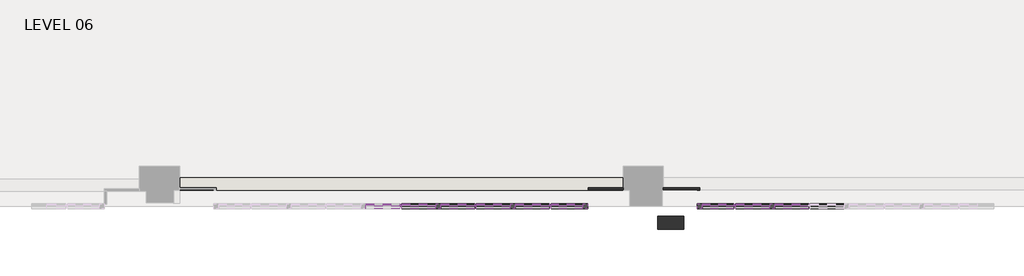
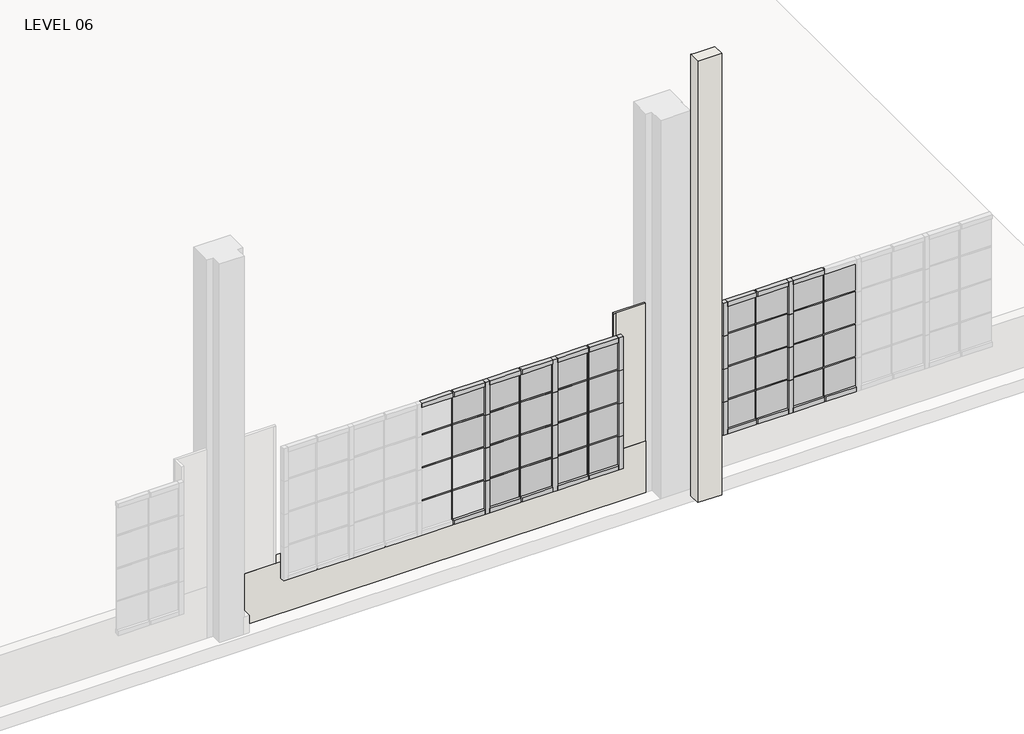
# One storey, part 6 of 16: 82 members, 34 plates, 6 walls.
"""IFC4 building model written with IfcOpenShell, lengths in millimetres."""

from ifc_helpers import new_model, si_unit, frame, origin, place, context, project, spatial, polyline, outline, extrude, faceted_brep, transform, mapped, element, save
from components import member_78bb2ef1, member_cb03ba1c, member_aa53491b, member_c1b5942e, member_9d26962d, member_378e0c06, member_17eb62f4, system_panel_glazed_79ade883, system_panel_glazed_12cc9f41, system_panel_glazed_730530c4, system_panel_glazed_b8d6571b

model = new_model("IFC4")

# Units and contexts
model_context = context("Model", 3, world=origin())
ifc_project = project(units=[si_unit("LENGTHUNIT", "METRE", prefix="MILLI")], contexts=[model_context])

# Site, building, storey
site = spatial("IfcSite", under=ifc_project)
building = spatial("IfcBuilding", under=site)
storey = spatial("IfcBuildingStorey", under=building, Name="LEVEL 06", Elevation=17449.8)

# Members
placement = place(None, origin())
member_shape = member_78bb2ef1(model_context)
element("IfcMember", 1, ObjectType="Rectangular Mullion : 1\" x 1\" - Butt Joint", at=placement, inside=storey, context=model_context, shape_type="MappedRepresentation", body=[
    mapped(member_shape, transform((-11742.0217677, -25119.8112062, 19989.8), x_axis=(1.0, 0.0, 0.0), y_axis=(0.0, -1.0, 0.0), z_axis=(0.0, 0.0, -1.0))),
])
element("IfcMember", 2, ObjectType="Rectangular Mullion : 1\" x 1\" - Butt Joint", at=placement, inside=storey, context=model_context, shape_type="MappedRepresentation", body=[
    mapped(member_shape, transform((-10604.1017677, -25119.8112062, 19989.8), x_axis=(1.0, 0.0, 0.0), y_axis=(0.0, -1.0, 0.0), z_axis=(0.0, 0.0, -1.0))),
])
element("IfcMember", 3, ObjectType="Rectangular Mullion : 1\" x 1\" - Butt Joint", at=placement, inside=storey, context=model_context, shape_type="MappedRepresentation", body=[
    mapped(member_shape, transform((-9466.1817677, -25119.8112062, 19989.8), x_axis=(1.0, 0.0, 0.0), y_axis=(0.0, -1.0, 0.0), z_axis=(0.0, 0.0, -1.0))),
])
element("IfcMember", 4, ObjectType="Rectangular Mullion : 1\" x 1\" - Butt Joint", at=placement, inside=storey, context=model_context, shape_type="MappedRepresentation", body=[
    mapped(member_shape, transform((-6655.9871136, -25119.8112062, 19989.8), x_axis=(1.0, 0.0, 0.0), y_axis=(0.0, -1.0, 0.0), z_axis=(0.0, 0.0, -1.0))),
])
element("IfcMember", 5, ObjectType="Rectangular Mullion : 1\" x 1\" - Butt Joint", at=placement, inside=storey, context=model_context, shape_type="MappedRepresentation", body=[
    mapped(member_shape, transform((-5518.0671136, -25119.8112062, 19989.8), x_axis=(1.0, 0.0, 0.0), y_axis=(0.0, -1.0, 0.0), z_axis=(0.0, 0.0, -1.0))),
])
member_2_shape = member_cb03ba1c(model_context)
element("IfcMember", 6, ObjectType="Rectangular Mullion : 1\" x 1\" - Butt Joint", at=placement, inside=storey, context=model_context, shape_type="MappedRepresentation", body=[
    mapped(member_2_shape, transform((-10073.2417677, -25119.8112062, 19989.8), x_axis=(0.0, 0.0, 1.0), y_axis=(0.0, -1.0, 0.0), z_axis=(1.0, 0.0, 0.0))),
])
element("IfcMember", 7, ObjectType="Rectangular Mullion : 1\" x 1\" - Butt Joint", at=placement, inside=storey, context=model_context, shape_type="MappedRepresentation", body=[
    mapped(member_2_shape, transform((-11211.1617677, -25119.8112062, 19989.8), x_axis=(0.0, 0.0, 1.0), y_axis=(0.0, -1.0, 0.0), z_axis=(1.0, 0.0, 0.0))),
])
element("IfcMember", 8, ObjectType="Rectangular Mullion : 1\" x 1\" - Butt Joint", at=placement, inside=storey, context=model_context, shape_type="MappedRepresentation", body=[
    mapped(member_2_shape, transform((-9478.8817677, -25119.8112062, 19989.8), x_axis=(0.0, 0.0, 1.0), y_axis=(0.0, -1.0, 0.0), z_axis=(1.0, 0.0, 0.0))),
])
element("IfcMember", 9, ObjectType="Rectangular Mullion : 1\" x 1\" - Butt Joint", at=placement, inside=storey, context=model_context, shape_type="MappedRepresentation", body=[
    mapped(member_2_shape, transform((-10616.8017677, -25119.8112062, 19989.8), x_axis=(0.0, 0.0, 1.0), y_axis=(0.0, -1.0, 0.0), z_axis=(1.0, 0.0, 0.0))),
])
element("IfcMember", 10, ObjectType="Rectangular Mullion : 1\" x 1\" - Butt Joint", at=placement, inside=storey, context=model_context, shape_type="MappedRepresentation", body=[
    mapped(member_2_shape, transform((-11754.7217677, -25119.8112062, 19989.8), x_axis=(0.0, 0.0, 1.0), y_axis=(0.0, -1.0, 0.0), z_axis=(1.0, 0.0, 0.0))),
])
element("IfcMember", 11, ObjectType="Rectangular Mullion : 1\" x 1\" - Butt Joint", at=placement, inside=storey, context=model_context, shape_type="MappedRepresentation", body=[
    mapped(member_2_shape, transform((-10073.2417677, -25119.8112062, 19405.6), x_axis=(0.0, 0.0, 1.0), y_axis=(0.0, -1.0, 0.0), z_axis=(1.0, 0.0, 0.0))),
])
element("IfcMember", 12, ObjectType="Rectangular Mullion : 1\" x 1\" - Butt Joint", at=placement, inside=storey, context=model_context, shape_type="MappedRepresentation", body=[
    mapped(member_2_shape, transform((-11211.1617677, -25119.8112062, 19405.6), x_axis=(0.0, 0.0, 1.0), y_axis=(0.0, -1.0, 0.0), z_axis=(1.0, 0.0, 0.0))),
])
element("IfcMember", 13, ObjectType="Rectangular Mullion : 1\" x 1\" - Butt Joint", at=placement, inside=storey, context=model_context, shape_type="MappedRepresentation", body=[
    mapped(member_2_shape, transform((-9478.8817677, -25119.8112062, 19405.6), x_axis=(0.0, 0.0, 1.0), y_axis=(0.0, -1.0, 0.0), z_axis=(1.0, 0.0, 0.0))),
])
element("IfcMember", 14, ObjectType="Rectangular Mullion : 1\" x 1\" - Butt Joint", at=placement, inside=storey, context=model_context, shape_type="MappedRepresentation", body=[
    mapped(member_2_shape, transform((-10616.8017677, -25119.8112062, 19405.6), x_axis=(0.0, 0.0, 1.0), y_axis=(0.0, -1.0, 0.0), z_axis=(1.0, 0.0, 0.0))),
])
element("IfcMember", 15, ObjectType="Rectangular Mullion : 1\" x 1\" - Butt Joint", at=placement, inside=storey, context=model_context, shape_type="MappedRepresentation", body=[
    mapped(member_2_shape, transform((-11754.7217677, -25119.8112062, 19405.6), x_axis=(0.0, 0.0, 1.0), y_axis=(0.0, -1.0, 0.0), z_axis=(1.0, 0.0, 0.0))),
])
element("IfcMember", 16, ObjectType="Rectangular Mullion : 1\" x 1\" - Butt Joint", at=placement, inside=storey, context=model_context, shape_type="MappedRepresentation", body=[
    mapped(member_2_shape, transform((-10073.2417677, -25119.8112062, 18821.4), x_axis=(0.0, 0.0, 1.0), y_axis=(0.0, -1.0, 0.0), z_axis=(1.0, 0.0, 0.0))),
])
element("IfcMember", 17, ObjectType="Rectangular Mullion : 1\" x 1\" - Butt Joint", at=placement, inside=storey, context=model_context, shape_type="MappedRepresentation", body=[
    mapped(member_2_shape, transform((-11211.1617677, -25119.8112062, 18821.4), x_axis=(0.0, 0.0, 1.0), y_axis=(0.0, -1.0, 0.0), z_axis=(1.0, 0.0, 0.0))),
])
element("IfcMember", 18, ObjectType="Rectangular Mullion : 1\" x 1\" - Butt Joint", at=placement, inside=storey, context=model_context, shape_type="MappedRepresentation", body=[
    mapped(member_2_shape, transform((-9478.8817677, -25119.8112062, 18821.4), x_axis=(0.0, 0.0, 1.0), y_axis=(0.0, -1.0, 0.0), z_axis=(1.0, 0.0, 0.0))),
])
element("IfcMember", 19, ObjectType="Rectangular Mullion : 1\" x 1\" - Butt Joint", at=placement, inside=storey, context=model_context, shape_type="MappedRepresentation", body=[
    mapped(member_2_shape, transform((-10616.8017677, -25119.8112062, 18821.4), x_axis=(0.0, 0.0, 1.0), y_axis=(0.0, -1.0, 0.0), z_axis=(1.0, 0.0, 0.0))),
])
element("IfcMember", 20, ObjectType="Rectangular Mullion : 1\" x 1\" - Butt Joint", at=placement, inside=storey, context=model_context, shape_type="MappedRepresentation", body=[
    mapped(member_2_shape, transform((-11754.7217677, -25119.8112062, 18821.4), x_axis=(0.0, 0.0, 1.0), y_axis=(0.0, -1.0, 0.0), z_axis=(1.0, 0.0, 0.0))),
])
element("IfcMember", 21, ObjectType="Rectangular Mullion : 1\" x 1\" - Butt Joint", at=placement, inside=storey, context=model_context, shape_type="MappedRepresentation", body=[
    mapped(member_2_shape, transform((-6125.1271136, -25119.8112062, 19989.8), x_axis=(0.0, 0.0, 1.0), y_axis=(0.0, -1.0, 0.0), z_axis=(1.0, 0.0, 0.0))),
])
element("IfcMember", 22, ObjectType="Rectangular Mullion : 1\" x 1\" - Butt Joint", at=placement, inside=storey, context=model_context, shape_type="MappedRepresentation", body=[
    mapped(member_2_shape, transform((-5530.7671136, -25119.8112062, 19989.8), x_axis=(0.0, 0.0, 1.0), y_axis=(0.0, -1.0, 0.0), z_axis=(1.0, 0.0, 0.0))),
])
element("IfcMember", 23, ObjectType="Rectangular Mullion : 1\" x 1\" - Butt Joint", at=placement, inside=storey, context=model_context, shape_type="MappedRepresentation", body=[
    mapped(member_2_shape, transform((-6125.1271136, -25119.8112062, 19405.6), x_axis=(0.0, 0.0, 1.0), y_axis=(0.0, -1.0, 0.0), z_axis=(1.0, 0.0, 0.0))),
])
element("IfcMember", 24, ObjectType="Rectangular Mullion : 1\" x 1\" - Butt Joint", at=placement, inside=storey, context=model_context, shape_type="MappedRepresentation", body=[
    mapped(member_2_shape, transform((-5530.7671136, -25119.8112062, 19405.6), x_axis=(0.0, 0.0, 1.0), y_axis=(0.0, -1.0, 0.0), z_axis=(1.0, 0.0, 0.0))),
])
element("IfcMember", 25, ObjectType="Rectangular Mullion : 1\" x 1\" - Butt Joint", at=placement, inside=storey, context=model_context, shape_type="MappedRepresentation", body=[
    mapped(member_2_shape, transform((-6125.1271136, -25119.8112062, 18821.4), x_axis=(0.0, 0.0, 1.0), y_axis=(0.0, -1.0, 0.0), z_axis=(1.0, 0.0, 0.0))),
])
element("IfcMember", 26, ObjectType="Rectangular Mullion : 1\" x 1\" - Butt Joint", at=placement, inside=storey, context=model_context, shape_type="MappedRepresentation", body=[
    mapped(member_2_shape, transform((-5530.7671136, -25119.8112062, 18821.4), x_axis=(0.0, 0.0, 1.0), y_axis=(0.0, -1.0, 0.0), z_axis=(1.0, 0.0, 0.0))),
])
member_3_shape = member_aa53491b(model_context)
element("IfcMember", 27, ObjectType="Rectangular Mullion : 1\" x 1\" - Butt Joint", at=placement, inside=storey, context=model_context, shape_type="MappedRepresentation", body=[
    mapped(member_3_shape, transform((-8973.4217677, -25119.8112062, 19989.8), x_axis=(0.0, 0.0, 1.0), y_axis=(0.0, -1.0, 0.0), z_axis=(1.0, 0.0, 0.0))),
])
element("IfcMember", 28, ObjectType="Rectangular Mullion : 1\" x 1\" - Butt Joint", at=placement, inside=storey, context=model_context, shape_type="MappedRepresentation", body=[
    mapped(member_3_shape, transform((-8973.4217677, -25119.8112062, 19405.6), x_axis=(0.0, 0.0, 1.0), y_axis=(0.0, -1.0, 0.0), z_axis=(1.0, 0.0, 0.0))),
])
element("IfcMember", 29, ObjectType="Rectangular Mullion : 1\" x 1\" - Butt Joint", at=placement, inside=storey, context=model_context, shape_type="MappedRepresentation", body=[
    mapped(member_3_shape, transform((-8973.4217677, -25119.8112062, 18821.4), x_axis=(0.0, 0.0, 1.0), y_axis=(0.0, -1.0, 0.0), z_axis=(1.0, 0.0, 0.0))),
])
element("IfcMember", 30, ObjectType="Rectangular Mullion : 1\" x 1\" - Butt Joint", at=placement, inside=storey, context=model_context, shape_type="MappedRepresentation", body=[
    mapped(member_3_shape, transform((-6668.6871136, -25119.8112062, 19989.8), x_axis=(0.0, 0.0, 1.0), y_axis=(0.0, -1.0, 0.0), z_axis=(1.0, 0.0, 0.0))),
])
element("IfcMember", 31, ObjectType="Rectangular Mullion : 1\" x 1\" - Butt Joint", at=placement, inside=storey, context=model_context, shape_type="MappedRepresentation", body=[
    mapped(member_3_shape, transform((-6668.6871136, -25119.8112062, 19405.6), x_axis=(0.0, 0.0, 1.0), y_axis=(0.0, -1.0, 0.0), z_axis=(1.0, 0.0, 0.0))),
])
element("IfcMember", 32, ObjectType="Rectangular Mullion : 1\" x 1\" - Butt Joint", at=placement, inside=storey, context=model_context, shape_type="MappedRepresentation", body=[
    mapped(member_3_shape, transform((-6668.6871136, -25119.8112062, 18821.4), x_axis=(0.0, 0.0, 1.0), y_axis=(0.0, -1.0, 0.0), z_axis=(1.0, 0.0, 0.0))),
])
element("IfcMember", 33, ObjectType="Rectangular Mullion : 1\" x 1\" - Butt Joint", at=placement, inside=storey, context=model_context, shape_type="MappedRepresentation", body=[
    mapped(member_shape, transform((-11742.0217677, -25119.8112062, 19405.6), x_axis=(1.0, 0.0, 0.0), y_axis=(0.0, -1.0, 0.0), z_axis=(0.0, 0.0, -1.0))),
])
element("IfcMember", 34, ObjectType="Rectangular Mullion : 1\" x 1\" - Butt Joint", at=placement, inside=storey, context=model_context, shape_type="MappedRepresentation", body=[
    mapped(member_shape, transform((-11742.0217677, -25119.8112062, 18821.4), x_axis=(1.0, 0.0, 0.0), y_axis=(0.0, -1.0, 0.0), z_axis=(0.0, 0.0, -1.0))),
])
element("IfcMember", 35, ObjectType="Rectangular Mullion : 1\" x 1\" - Butt Joint", at=placement, inside=storey, context=model_context, shape_type="MappedRepresentation", body=[
    mapped(member_shape, transform((-10604.1017677, -25119.8112062, 19405.6), x_axis=(1.0, 0.0, 0.0), y_axis=(0.0, -1.0, 0.0), z_axis=(0.0, 0.0, -1.0))),
])
element("IfcMember", 36, ObjectType="Rectangular Mullion : 1\" x 1\" - Butt Joint", at=placement, inside=storey, context=model_context, shape_type="MappedRepresentation", body=[
    mapped(member_shape, transform((-10604.1017677, -25119.8112062, 18821.4), x_axis=(1.0, 0.0, 0.0), y_axis=(0.0, -1.0, 0.0), z_axis=(0.0, 0.0, -1.0))),
])
element("IfcMember", 37, ObjectType="Rectangular Mullion : 1\" x 1\" - Butt Joint", at=placement, inside=storey, context=model_context, shape_type="MappedRepresentation", body=[
    mapped(member_shape, transform((-9466.1817677, -25119.8112062, 19405.6), x_axis=(1.0, 0.0, 0.0), y_axis=(0.0, -1.0, 0.0), z_axis=(0.0, 0.0, -1.0))),
])
element("IfcMember", 38, ObjectType="Rectangular Mullion : 1\" x 1\" - Butt Joint", at=placement, inside=storey, context=model_context, shape_type="MappedRepresentation", body=[
    mapped(member_shape, transform((-9466.1817677, -25119.8112062, 18821.4), x_axis=(1.0, 0.0, 0.0), y_axis=(0.0, -1.0, 0.0), z_axis=(0.0, 0.0, -1.0))),
])
element("IfcMember", 39, ObjectType="Rectangular Mullion : 1\" x 1\" - Butt Joint", at=placement, inside=storey, context=model_context, shape_type="MappedRepresentation", body=[
    mapped(member_shape, transform((-6655.9871136, -25119.8112062, 19405.6), x_axis=(1.0, 0.0, 0.0), y_axis=(0.0, -1.0, 0.0), z_axis=(0.0, 0.0, -1.0))),
])
element("IfcMember", 40, ObjectType="Rectangular Mullion : 1\" x 1\" - Butt Joint", at=placement, inside=storey, context=model_context, shape_type="MappedRepresentation", body=[
    mapped(member_shape, transform((-6655.9871136, -25119.8112062, 18821.4), x_axis=(1.0, 0.0, 0.0), y_axis=(0.0, -1.0, 0.0), z_axis=(0.0, 0.0, -1.0))),
])
element("IfcMember", 41, ObjectType="Rectangular Mullion : 1\" x 1\" - Butt Joint", at=placement, inside=storey, context=model_context, shape_type="MappedRepresentation", body=[
    mapped(member_shape, transform((-11742.0217677, -25119.8112062, 18237.2), x_axis=(1.0, 0.0, 0.0), y_axis=(0.0, -1.0, 0.0), z_axis=(0.0, 0.0, -1.0))),
])
element("IfcMember", 42, ObjectType="Rectangular Mullion : 1\" x 1\" - Butt Joint", at=placement, inside=storey, context=model_context, shape_type="MappedRepresentation", body=[
    mapped(member_shape, transform((-10604.1017677, -25119.8112062, 18237.2), x_axis=(1.0, 0.0, 0.0), y_axis=(0.0, -1.0, 0.0), z_axis=(0.0, 0.0, -1.0))),
])
element("IfcMember", 43, ObjectType="Rectangular Mullion : 1\" x 1\" - Butt Joint", at=placement, inside=storey, context=model_context, shape_type="MappedRepresentation", body=[
    mapped(member_shape, transform((-9466.1817677, -25119.8112062, 18237.2), x_axis=(1.0, 0.0, 0.0), y_axis=(0.0, -1.0, 0.0), z_axis=(0.0, 0.0, -1.0))),
])
element("IfcMember", 44, ObjectType="Rectangular Mullion : 1\" x 1\" - Butt Joint", at=placement, inside=storey, context=model_context, shape_type="MappedRepresentation", body=[
    mapped(member_shape, transform((-6655.9871136, -25119.8112062, 18237.2), x_axis=(1.0, 0.0, 0.0), y_axis=(0.0, -1.0, 0.0), z_axis=(0.0, 0.0, -1.0))),
])
member_4_shape = member_c1b5942e(model_context)
element("IfcMember", 45, ObjectType="Rectangular Mullion : 3\" x 3\" Window Jamb", at=placement, inside=storey, context=model_context, shape_type="MappedRepresentation", body=[
    mapped(member_4_shape, transform((-10591.4017677, -25119.8112062, 18237.2), x_axis=(0.0, 0.0, -1.0), y_axis=(0.0, -1.0, 0.0), z_axis=(-1.0, 0.0, 0.0))),
])
element("IfcMember", 46, ObjectType="Rectangular Mullion : 3\" x 3\" Window Jamb", at=placement, inside=storey, context=model_context, shape_type="MappedRepresentation", body=[
    mapped(member_4_shape, transform((-11729.3217677, -25119.8112062, 18237.2), x_axis=(0.0, 0.0, -1.0), y_axis=(0.0, -1.0, 0.0), z_axis=(-1.0, 0.0, 0.0))),
])
element("IfcMember", 47, ObjectType="Rectangular Mullion : 3\" x 3\" Window Jamb", at=placement, inside=storey, context=model_context, shape_type="MappedRepresentation", body=[
    mapped(member_4_shape, transform((-9997.0417677, -25119.8112062, 18237.2), x_axis=(0.0, 0.0, -1.0), y_axis=(0.0, -1.0, 0.0), z_axis=(-1.0, 0.0, 0.0))),
])
element("IfcMember", 48, ObjectType="Rectangular Mullion : 3\" x 3\" Window Jamb", at=placement, inside=storey, context=model_context, shape_type="MappedRepresentation", body=[
    mapped(member_4_shape, transform((-11134.9617677, -25119.8112062, 18237.2), x_axis=(0.0, 0.0, -1.0), y_axis=(0.0, -1.0, 0.0), z_axis=(-1.0, 0.0, 0.0))),
])
element("IfcMember", 49, ObjectType="Rectangular Mullion : 3\" x 3\" Window Jamb", at=placement, inside=storey, context=model_context, shape_type="MappedRepresentation", body=[
    mapped(member_4_shape, transform((-5505.3671136, -25119.8112062, 18237.2), x_axis=(0.0, 0.0, -1.0), y_axis=(0.0, -1.0, 0.0), z_axis=(-1.0, 0.0, 0.0))),
])
element("IfcMember", 50, ObjectType="Rectangular Mullion : 3\" x 3\" Window Jamb", at=placement, inside=storey, context=model_context, shape_type="MappedRepresentation", body=[
    mapped(member_4_shape, transform((-6643.2871136, -25119.8112062, 18237.2), x_axis=(0.0, 0.0, -1.0), y_axis=(0.0, -1.0, 0.0), z_axis=(-1.0, 0.0, 0.0))),
])
element("IfcMember", 51, ObjectType="Rectangular Mullion : 3\" x 3\" Window Jamb", at=placement, inside=storey, context=model_context, shape_type="MappedRepresentation", body=[
    mapped(member_4_shape, transform((-6048.9271136, -25119.8112062, 18237.2), x_axis=(0.0, 0.0, -1.0), y_axis=(0.0, -1.0, 0.0), z_axis=(-1.0, 0.0, 0.0))),
])
member_5_shape = member_9d26962d(model_context)
element("IfcMember", 52, ObjectType="Rectangular Mullion : 3\" x 3\" Window Jamb", at=placement, inside=storey, context=model_context, shape_type="MappedRepresentation", body=[
    mapped(member_5_shape, transform((-9453.4817677, -25119.8112062, 18237.2), x_axis=(0.0, 0.0, -1.0), y_axis=(0.0, -1.0, 0.0), z_axis=(-1.0, 0.0, 0.0))),
])
element("IfcMember", 53, ObjectType="Rectangular Mullion : 3\" x 3\" Window Jamb", at=placement, inside=storey, context=model_context, shape_type="MappedRepresentation", body=[
    mapped(member_5_shape, transform((-7148.7471136, -25119.8112062, 18237.2), x_axis=(0.0, 0.0, -1.0), y_axis=(0.0, -1.0, 0.0), z_axis=(-1.0, 0.0, 0.0))),
])
element("IfcMember", 54, ObjectType="Rectangular Mullion : 3\" x 3\" Window Jamb", at=placement, inside=storey, context=model_context, shape_type="MappedRepresentation", body=[
    mapped(member_5_shape, transform((-8973.4217677, -25119.8112062, 20574.0), x_axis=(0.0, 0.0, 1.0), y_axis=(0.0, -1.0, 0.0), z_axis=(1.0, 0.0, 0.0))),
])
element("IfcMember", 55, ObjectType="Rectangular Mullion : 3\" x 3\" Window Jamb", at=placement, inside=storey, context=model_context, shape_type="MappedRepresentation", body=[
    mapped(member_5_shape, transform((-6668.6871136, -25119.8112062, 20574.0), x_axis=(0.0, 0.0, 1.0), y_axis=(0.0, -1.0, 0.0), z_axis=(1.0, 0.0, 0.0))),
])
element("IfcMember", 56, ObjectType="Rectangular Mullion : 3\" x 3\" Window Jamb", at=placement, inside=storey, context=model_context, shape_type="MappedRepresentation", body=[
    mapped(member_4_shape, transform((-9478.8817677, -25119.8112062, 20574.0), x_axis=(0.0, 0.0, 1.0), y_axis=(0.0, -1.0, 0.0), z_axis=(1.0, 0.0, 0.0))),
])
element("IfcMember", 57, ObjectType="Rectangular Mullion : 3\" x 3\" Window Jamb", at=placement, inside=storey, context=model_context, shape_type="MappedRepresentation", body=[
    mapped(member_4_shape, transform((-10616.8017677, -25119.8112062, 20574.0), x_axis=(0.0, 0.0, 1.0), y_axis=(0.0, -1.0, 0.0), z_axis=(1.0, 0.0, 0.0))),
])
element("IfcMember", 58, ObjectType="Rectangular Mullion : 3\" x 3\" Window Jamb", at=placement, inside=storey, context=model_context, shape_type="MappedRepresentation", body=[
    mapped(member_4_shape, transform((-11754.7217677, -25119.8112062, 20574.0), x_axis=(0.0, 0.0, 1.0), y_axis=(0.0, -1.0, 0.0), z_axis=(1.0, 0.0, 0.0))),
])
element("IfcMember", 59, ObjectType="Rectangular Mullion : 3\" x 3\" Window Jamb", at=placement, inside=storey, context=model_context, shape_type="MappedRepresentation", body=[
    mapped(member_4_shape, transform((-10073.2417677, -25119.8112062, 20574.0), x_axis=(0.0, 0.0, 1.0), y_axis=(0.0, -1.0, 0.0), z_axis=(1.0, 0.0, 0.0))),
])
element("IfcMember", 60, ObjectType="Rectangular Mullion : 3\" x 3\" Window Jamb", at=placement, inside=storey, context=model_context, shape_type="MappedRepresentation", body=[
    mapped(member_4_shape, transform((-11211.1617677, -25119.8112062, 20574.0), x_axis=(0.0, 0.0, 1.0), y_axis=(0.0, -1.0, 0.0), z_axis=(1.0, 0.0, 0.0))),
])
element("IfcMember", 61, ObjectType="Rectangular Mullion : 3\" x 3\" Window Jamb", at=placement, inside=storey, context=model_context, shape_type="MappedRepresentation", body=[
    mapped(member_4_shape, transform((-5530.7671136, -25119.8112062, 20574.0), x_axis=(0.0, 0.0, 1.0), y_axis=(0.0, -1.0, 0.0), z_axis=(1.0, 0.0, 0.0))),
])
element("IfcMember", 62, ObjectType="Rectangular Mullion : 3\" x 3\" Window Jamb", at=placement, inside=storey, context=model_context, shape_type="MappedRepresentation", body=[
    mapped(member_4_shape, transform((-6125.1271136, -25119.8112062, 20574.0), x_axis=(0.0, 0.0, 1.0), y_axis=(0.0, -1.0, 0.0), z_axis=(1.0, 0.0, 0.0))),
])
member_6_shape = member_378e0c06(model_context)
element("IfcMember", 63, ObjectType="Rectangular Mullion : 3\" x 3\" Window Jamb", at=placement, inside=storey, context=model_context, shape_type="MappedRepresentation", body=[
    mapped(member_6_shape, transform((-11173.0617677, -25119.8112062, 19989.8), x_axis=(1.0, 0.0, 0.0), y_axis=(0.0, -1.0, 0.0), z_axis=(0.0, 0.0, -1.0))),
])
element("IfcMember", 64, ObjectType="Rectangular Mullion : 3\" x 3\" Window Jamb", at=placement, inside=storey, context=model_context, shape_type="MappedRepresentation", body=[
    mapped(member_6_shape, transform((-10035.1417677, -25119.8112062, 19989.8), x_axis=(1.0, 0.0, 0.0), y_axis=(0.0, -1.0, 0.0), z_axis=(0.0, 0.0, -1.0))),
])
element("IfcMember", 65, ObjectType="Rectangular Mullion : 3\" x 3\" Window Jamb", at=placement, inside=storey, context=model_context, shape_type="MappedRepresentation", body=[
    mapped(member_6_shape, transform((-6087.0271136, -25119.8112062, 19989.8), x_axis=(1.0, 0.0, 0.0), y_axis=(0.0, -1.0, 0.0), z_axis=(0.0, 0.0, -1.0))),
])
member_7_shape = member_17eb62f4(model_context)
element("IfcMember", 66, ObjectType="Rectangular Mullion : 3\" x 3\" Window Jamb", at=placement, inside=storey, context=model_context, shape_type="MappedRepresentation", body=[
    mapped(member_7_shape, transform((-8897.2217677, -25119.8112062, 19989.8), x_axis=(1.0, 0.0, 0.0), y_axis=(0.0, -1.0, 0.0), z_axis=(0.0, 0.0, -1.0))),
])
element("IfcMember", 67, ObjectType="Rectangular Mullion : 3\" x 3\" Window Jamb", at=placement, inside=storey, context=model_context, shape_type="MappedRepresentation", body=[
    mapped(member_7_shape, transform((-7224.9471136, -25119.8112062, 20574.0), x_axis=(-1.0, 0.0, 0.0), y_axis=(0.0, -1.0, 0.0), z_axis=(0.0, 0.0, 1.0))),
])
element("IfcMember", 68, ObjectType="Rectangular Mullion : 3\" x 3\" Window Jamb", at=placement, inside=storey, context=model_context, shape_type="MappedRepresentation", body=[
    mapped(member_6_shape, transform((-11173.0617677, -25119.8112062, 19405.6), x_axis=(1.0, 0.0, 0.0), y_axis=(0.0, -1.0, 0.0), z_axis=(0.0, 0.0, -1.0))),
])
element("IfcMember", 69, ObjectType="Rectangular Mullion : 3\" x 3\" Window Jamb", at=placement, inside=storey, context=model_context, shape_type="MappedRepresentation", body=[
    mapped(member_6_shape, transform((-11173.0617677, -25119.8112062, 18821.4), x_axis=(1.0, 0.0, 0.0), y_axis=(0.0, -1.0, 0.0), z_axis=(0.0, 0.0, -1.0))),
])
element("IfcMember", 70, ObjectType="Rectangular Mullion : 3\" x 3\" Window Jamb", at=placement, inside=storey, context=model_context, shape_type="MappedRepresentation", body=[
    mapped(member_6_shape, transform((-10035.1417677, -25119.8112062, 19405.6), x_axis=(1.0, 0.0, 0.0), y_axis=(0.0, -1.0, 0.0), z_axis=(0.0, 0.0, -1.0))),
])
element("IfcMember", 71, ObjectType="Rectangular Mullion : 3\" x 3\" Window Jamb", at=placement, inside=storey, context=model_context, shape_type="MappedRepresentation", body=[
    mapped(member_6_shape, transform((-10035.1417677, -25119.8112062, 18821.4), x_axis=(1.0, 0.0, 0.0), y_axis=(0.0, -1.0, 0.0), z_axis=(0.0, 0.0, -1.0))),
])
element("IfcMember", 72, ObjectType="Rectangular Mullion : 3\" x 3\" Window Jamb", at=placement, inside=storey, context=model_context, shape_type="MappedRepresentation", body=[
    mapped(member_6_shape, transform((-6087.0271136, -25119.8112062, 19405.6), x_axis=(1.0, 0.0, 0.0), y_axis=(0.0, -1.0, 0.0), z_axis=(0.0, 0.0, -1.0))),
])
element("IfcMember", 73, ObjectType="Rectangular Mullion : 3\" x 3\" Window Jamb", at=placement, inside=storey, context=model_context, shape_type="MappedRepresentation", body=[
    mapped(member_6_shape, transform((-6087.0271136, -25119.8112062, 18821.4), x_axis=(1.0, 0.0, 0.0), y_axis=(0.0, -1.0, 0.0), z_axis=(0.0, 0.0, -1.0))),
])
element("IfcMember", 74, ObjectType="Rectangular Mullion : 3\" x 3\" Window Jamb", at=placement, inside=storey, context=model_context, shape_type="MappedRepresentation", body=[
    mapped(member_7_shape, transform((-8897.2217677, -25119.8112062, 19405.6), x_axis=(1.0, 0.0, 0.0), y_axis=(0.0, -1.0, 0.0), z_axis=(0.0, 0.0, -1.0))),
])
element("IfcMember", 75, ObjectType="Rectangular Mullion : 3\" x 3\" Window Jamb", at=placement, inside=storey, context=model_context, shape_type="MappedRepresentation", body=[
    mapped(member_7_shape, transform((-8897.2217677, -25119.8112062, 18821.4), x_axis=(1.0, 0.0, 0.0), y_axis=(0.0, -1.0, 0.0), z_axis=(0.0, 0.0, -1.0))),
])
element("IfcMember", 76, ObjectType="Rectangular Mullion : 3\" x 3\" Window Jamb", at=placement, inside=storey, context=model_context, shape_type="MappedRepresentation", body=[
    mapped(member_7_shape, transform((-7224.9471136, -25119.8112062, 19989.8), x_axis=(-1.0, 0.0, 0.0), y_axis=(0.0, -1.0, 0.0), z_axis=(0.0, 0.0, 1.0))),
])
element("IfcMember", 77, ObjectType="Rectangular Mullion : 3\" x 3\" Window Jamb", at=placement, inside=storey, context=model_context, shape_type="MappedRepresentation", body=[
    mapped(member_7_shape, transform((-7224.9471136, -25119.8112062, 19405.6), x_axis=(-1.0, 0.0, 0.0), y_axis=(0.0, -1.0, 0.0), z_axis=(0.0, 0.0, 1.0))),
])
element("IfcMember", 78, ObjectType="Rectangular Mullion : 3\" x 3\" Window Jamb", at=placement, inside=storey, context=model_context, shape_type="MappedRepresentation", body=[
    mapped(member_6_shape, transform((-11173.0617677, -25119.8112062, 18237.2), x_axis=(1.0, 0.0, 0.0), y_axis=(0.0, -1.0, 0.0), z_axis=(0.0, 0.0, -1.0))),
])
element("IfcMember", 79, ObjectType="Rectangular Mullion : 3\" x 3\" Window Jamb", at=placement, inside=storey, context=model_context, shape_type="MappedRepresentation", body=[
    mapped(member_6_shape, transform((-10035.1417677, -25119.8112062, 18237.2), x_axis=(1.0, 0.0, 0.0), y_axis=(0.0, -1.0, 0.0), z_axis=(0.0, 0.0, -1.0))),
])
element("IfcMember", 80, ObjectType="Rectangular Mullion : 3\" x 3\" Window Jamb", at=placement, inside=storey, context=model_context, shape_type="MappedRepresentation", body=[
    mapped(member_6_shape, transform((-6087.0271136, -25119.8112062, 18237.2), x_axis=(1.0, 0.0, 0.0), y_axis=(0.0, -1.0, 0.0), z_axis=(0.0, 0.0, -1.0))),
])
element("IfcMember", 81, ObjectType="Rectangular Mullion : 3\" x 3\" Window Jamb", at=placement, inside=storey, context=model_context, shape_type="MappedRepresentation", body=[
    mapped(member_7_shape, transform((-8897.2217677, -25119.8112062, 18237.2), x_axis=(1.0, 0.0, 0.0), y_axis=(0.0, -1.0, 0.0), z_axis=(0.0, 0.0, -1.0))),
])
element("IfcMember", 82, ObjectType="Rectangular Mullion : 3\" x 3\" Window Jamb", at=placement, inside=storey, context=model_context, shape_type="MappedRepresentation", body=[
    mapped(member_7_shape, transform((-7224.9471136, -25119.8112062, 18821.4), x_axis=(-1.0, 0.0, 0.0), y_axis=(0.0, -1.0, 0.0), z_axis=(0.0, 0.0, 1.0))),
])

# Plates
system_panel_glazed_shape = system_panel_glazed_79ade883(model_context)
element("IfcPlate", 83, ObjectType="System Panel : Glazed", at=placement, inside=storey, context=model_context, shape_type="MappedRepresentation", body=[
    mapped(system_panel_glazed_shape, transform((-9213.4517677, -25119.8112062, 18313.4), x_axis=(1.0, 0.0, 0.0), y_axis=(0.0, 1.0, 0.0), z_axis=(0.0, 0.0, 1.0))),
])
element("IfcPlate", 84, ObjectType="System Panel : Glazed", at=placement, inside=storey, context=model_context, shape_type="MappedRepresentation", body=[
    mapped(system_panel_glazed_shape, transform((-9213.4517677, -25119.8112062, 20002.5), x_axis=(1.0, 0.0, 0.0), y_axis=(0.0, 1.0, 0.0), z_axis=(0.0, 0.0, 1.0))),
])
element("IfcPlate", 85, ObjectType="System Panel : Glazed", at=placement, inside=storey, context=model_context, shape_type="MappedRepresentation", body=[
    mapped(system_panel_glazed_shape, transform((-6908.7171136, -25119.8112062, 18313.4), x_axis=(1.0, 0.0, 0.0), y_axis=(0.0, 1.0, 0.0), z_axis=(0.0, 0.0, 1.0))),
])
element("IfcPlate", 86, ObjectType="System Panel : Glazed", at=placement, inside=storey, context=model_context, shape_type="MappedRepresentation", body=[
    mapped(system_panel_glazed_shape, transform((-6908.7171136, -25119.8112062, 20002.5), x_axis=(1.0, 0.0, 0.0), y_axis=(0.0, 1.0, 0.0), z_axis=(0.0, 0.0, 1.0))),
])
system_panel_glazed_2_shape = system_panel_glazed_12cc9f41(model_context)
element("IfcPlate", 87, ObjectType="System Panel : Glazed", at=placement, inside=storey, context=model_context, shape_type="MappedRepresentation", body=[
    mapped(system_panel_glazed_2_shape, transform((-10875.8817677, -25119.8112062, 18313.4), x_axis=(1.0, 0.0, 0.0), y_axis=(0.0, 1.0, 0.0), z_axis=(0.0, 0.0, 1.0))),
])
element("IfcPlate", 88, ObjectType="System Panel : Glazed", at=placement, inside=storey, context=model_context, shape_type="MappedRepresentation", body=[
    mapped(system_panel_glazed_2_shape, transform((-9737.9617677, -25119.8112062, 18313.4), x_axis=(1.0, 0.0, 0.0), y_axis=(0.0, 1.0, 0.0), z_axis=(0.0, 0.0, 1.0))),
])
element("IfcPlate", 89, ObjectType="System Panel : Glazed", at=placement, inside=storey, context=model_context, shape_type="MappedRepresentation", body=[
    mapped(system_panel_glazed_2_shape, transform((-10875.8817677, -25119.8112062, 20002.5), x_axis=(1.0, 0.0, 0.0), y_axis=(0.0, 1.0, 0.0), z_axis=(0.0, 0.0, 1.0))),
])
element("IfcPlate", 90, ObjectType="System Panel : Glazed", at=placement, inside=storey, context=model_context, shape_type="MappedRepresentation", body=[
    mapped(system_panel_glazed_2_shape, transform((-9737.9617677, -25119.8112062, 20002.5), x_axis=(1.0, 0.0, 0.0), y_axis=(0.0, 1.0, 0.0), z_axis=(0.0, 0.0, 1.0))),
])
element("IfcPlate", 91, ObjectType="System Panel : Glazed", at=placement, inside=storey, context=model_context, shape_type="MappedRepresentation", body=[
    mapped(system_panel_glazed_2_shape, transform((-11470.2417677, -25119.8112062, 20002.5), x_axis=(1.0, 0.0, 0.0), y_axis=(0.0, 1.0, 0.0), z_axis=(0.0, 0.0, 1.0))),
])
element("IfcPlate", 92, ObjectType="System Panel : Glazed", at=placement, inside=storey, context=model_context, shape_type="MappedRepresentation", body=[
    mapped(system_panel_glazed_2_shape, transform((-10332.3217677, -25119.8112062, 18313.4), x_axis=(1.0, 0.0, 0.0), y_axis=(0.0, 1.0, 0.0), z_axis=(0.0, 0.0, 1.0))),
])
element("IfcPlate", 93, ObjectType="System Panel : Glazed", at=placement, inside=storey, context=model_context, shape_type="MappedRepresentation", body=[
    mapped(system_panel_glazed_2_shape, transform((-10332.3217677, -25119.8112062, 20002.5), x_axis=(1.0, 0.0, 0.0), y_axis=(0.0, 1.0, 0.0), z_axis=(0.0, 0.0, 1.0))),
])
element("IfcPlate", 94, ObjectType="System Panel : Glazed", at=placement, inside=storey, context=model_context, shape_type="MappedRepresentation", body=[
    mapped(system_panel_glazed_2_shape, transform((-5789.8471136, -25119.8112062, 18313.4), x_axis=(1.0, 0.0, 0.0), y_axis=(0.0, 1.0, 0.0), z_axis=(0.0, 0.0, 1.0))),
])
element("IfcPlate", 95, ObjectType="System Panel : Glazed", at=placement, inside=storey, context=model_context, shape_type="MappedRepresentation", body=[
    mapped(system_panel_glazed_2_shape, transform((-5789.8471136, -25119.8112062, 20002.5), x_axis=(1.0, 0.0, 0.0), y_axis=(0.0, 1.0, 0.0), z_axis=(0.0, 0.0, 1.0))),
])
element("IfcPlate", 96, ObjectType="System Panel : Glazed", at=placement, inside=storey, context=model_context, shape_type="MappedRepresentation", body=[
    mapped(system_panel_glazed_2_shape, transform((-6384.2071136, -25119.8112062, 18313.4), x_axis=(1.0, 0.0, 0.0), y_axis=(0.0, 1.0, 0.0), z_axis=(0.0, 0.0, 1.0))),
])
element("IfcPlate", 97, ObjectType="System Panel : Glazed", at=placement, inside=storey, context=model_context, shape_type="MappedRepresentation", body=[
    mapped(system_panel_glazed_2_shape, transform((-6384.2071136, -25119.8112062, 20002.5), x_axis=(1.0, 0.0, 0.0), y_axis=(0.0, 1.0, 0.0), z_axis=(0.0, 0.0, 1.0))),
])
element("IfcPlate", 98, ObjectType="System Panel : Glazed", at=placement, inside=storey, context=model_context, shape_type="MappedRepresentation", body=[
    mapped(system_panel_glazed_2_shape, transform((-5246.2871136, -25119.8112062, 18313.4), x_axis=(1.0, 0.0, 0.0), y_axis=(0.0, 1.0, 0.0), z_axis=(0.0, 0.0, 1.0))),
])
element("IfcPlate", 99, ObjectType="System Panel : Glazed", at=placement, inside=storey, context=model_context, shape_type="MappedRepresentation", body=[
    mapped(system_panel_glazed_2_shape, transform((-5246.2871136, -25119.8112062, 20002.5), x_axis=(1.0, 0.0, 0.0), y_axis=(0.0, 1.0, 0.0), z_axis=(0.0, 0.0, 1.0))),
])
system_panel_glazed_3_shape = system_panel_glazed_730530c4(model_context)
element("IfcPlate", 100, ObjectType="System Panel : Glazed", at=placement, inside=storey, context=model_context, shape_type="MappedRepresentation", body=[
    mapped(system_panel_glazed_3_shape, transform((-9213.4517677, -25119.8112062, 18834.1), x_axis=(1.0, 0.0, 0.0), y_axis=(0.0, 1.0, 0.0), z_axis=(0.0, 0.0, 1.0))),
])
element("IfcPlate", 101, ObjectType="System Panel : Glazed", at=placement, inside=storey, context=model_context, shape_type="MappedRepresentation", body=[
    mapped(system_panel_glazed_3_shape, transform((-9213.4517677, -25119.8112062, 19418.3), x_axis=(1.0, 0.0, 0.0), y_axis=(0.0, 1.0, 0.0), z_axis=(0.0, 0.0, 1.0))),
])
element("IfcPlate", 102, ObjectType="System Panel : Glazed", at=placement, inside=storey, context=model_context, shape_type="MappedRepresentation", body=[
    mapped(system_panel_glazed_3_shape, transform((-6908.7171136, -25119.8112062, 18834.1), x_axis=(1.0, 0.0, 0.0), y_axis=(0.0, 1.0, 0.0), z_axis=(0.0, 0.0, 1.0))),
])
element("IfcPlate", 103, ObjectType="System Panel : Glazed", at=placement, inside=storey, context=model_context, shape_type="MappedRepresentation", body=[
    mapped(system_panel_glazed_3_shape, transform((-6908.7171136, -25119.8112062, 19418.3), x_axis=(1.0, 0.0, 0.0), y_axis=(0.0, 1.0, 0.0), z_axis=(0.0, 0.0, 1.0))),
])
system_panel_glazed_4_shape = system_panel_glazed_b8d6571b(model_context)
element("IfcPlate", 104, ObjectType="System Panel : Glazed", at=placement, inside=storey, context=model_context, shape_type="MappedRepresentation", body=[
    mapped(system_panel_glazed_4_shape, transform((-10875.8817677, -25119.8112062, 18834.1), x_axis=(1.0, 0.0, 0.0), y_axis=(0.0, 1.0, 0.0), z_axis=(0.0, 0.0, 1.0))),
])
element("IfcPlate", 105, ObjectType="System Panel : Glazed", at=placement, inside=storey, context=model_context, shape_type="MappedRepresentation", body=[
    mapped(system_panel_glazed_4_shape, transform((-9737.9617677, -25119.8112062, 18834.1), x_axis=(1.0, 0.0, 0.0), y_axis=(0.0, 1.0, 0.0), z_axis=(0.0, 0.0, 1.0))),
])
element("IfcPlate", 106, ObjectType="System Panel : Glazed", at=placement, inside=storey, context=model_context, shape_type="MappedRepresentation", body=[
    mapped(system_panel_glazed_4_shape, transform((-10875.8817677, -25119.8112062, 19418.3), x_axis=(1.0, 0.0, 0.0), y_axis=(0.0, 1.0, 0.0), z_axis=(0.0, 0.0, 1.0))),
])
element("IfcPlate", 107, ObjectType="System Panel : Glazed", at=placement, inside=storey, context=model_context, shape_type="MappedRepresentation", body=[
    mapped(system_panel_glazed_4_shape, transform((-9737.9617677, -25119.8112062, 19418.3), x_axis=(1.0, 0.0, 0.0), y_axis=(0.0, 1.0, 0.0), z_axis=(0.0, 0.0, 1.0))),
])
element("IfcPlate", 108, ObjectType="System Panel : Glazed", at=placement, inside=storey, context=model_context, shape_type="MappedRepresentation", body=[
    mapped(system_panel_glazed_4_shape, transform((-11470.2417677, -25119.8112062, 19418.3), x_axis=(1.0, 0.0, 0.0), y_axis=(0.0, 1.0, 0.0), z_axis=(0.0, 0.0, 1.0))),
])
element("IfcPlate", 109, ObjectType="System Panel : Glazed", at=placement, inside=storey, context=model_context, shape_type="MappedRepresentation", body=[
    mapped(system_panel_glazed_4_shape, transform((-10332.3217677, -25119.8112062, 18834.1), x_axis=(1.0, 0.0, 0.0), y_axis=(0.0, 1.0, 0.0), z_axis=(0.0, 0.0, 1.0))),
])
element("IfcPlate", 110, ObjectType="System Panel : Glazed", at=placement, inside=storey, context=model_context, shape_type="MappedRepresentation", body=[
    mapped(system_panel_glazed_4_shape, transform((-10332.3217677, -25119.8112062, 19418.3), x_axis=(1.0, 0.0, 0.0), y_axis=(0.0, 1.0, 0.0), z_axis=(0.0, 0.0, 1.0))),
])
element("IfcPlate", 111, ObjectType="System Panel : Glazed", at=placement, inside=storey, context=model_context, shape_type="MappedRepresentation", body=[
    mapped(system_panel_glazed_4_shape, transform((-5789.8471136, -25119.8112062, 18834.1), x_axis=(1.0, 0.0, 0.0), y_axis=(0.0, 1.0, 0.0), z_axis=(0.0, 0.0, 1.0))),
])
element("IfcPlate", 112, ObjectType="System Panel : Glazed", at=placement, inside=storey, context=model_context, shape_type="MappedRepresentation", body=[
    mapped(system_panel_glazed_4_shape, transform((-5789.8471136, -25119.8112062, 19418.3), x_axis=(1.0, 0.0, 0.0), y_axis=(0.0, 1.0, 0.0), z_axis=(0.0, 0.0, 1.0))),
])
element("IfcPlate", 113, ObjectType="System Panel : Glazed", at=placement, inside=storey, context=model_context, shape_type="MappedRepresentation", body=[
    mapped(system_panel_glazed_4_shape, transform((-6384.2071136, -25119.8112062, 18834.1), x_axis=(1.0, 0.0, 0.0), y_axis=(0.0, 1.0, 0.0), z_axis=(0.0, 0.0, 1.0))),
])
element("IfcPlate", 114, ObjectType="System Panel : Glazed", at=placement, inside=storey, context=model_context, shape_type="MappedRepresentation", body=[
    mapped(system_panel_glazed_4_shape, transform((-6384.2071136, -25119.8112062, 19418.3), x_axis=(1.0, 0.0, 0.0), y_axis=(0.0, 1.0, 0.0), z_axis=(0.0, 0.0, 1.0))),
])
element("IfcPlate", 115, ObjectType="System Panel : Glazed", at=placement, inside=storey, context=model_context, shape_type="MappedRepresentation", body=[
    mapped(system_panel_glazed_4_shape, transform((-5246.2871136, -25119.8112062, 18834.1), x_axis=(1.0, 0.0, 0.0), y_axis=(0.0, 1.0, 0.0), z_axis=(0.0, 0.0, 1.0))),
])
element("IfcPlate", 116, ObjectType="System Panel : Glazed", at=placement, inside=storey, context=model_context, shape_type="MappedRepresentation", body=[
    mapped(system_panel_glazed_4_shape, transform((-5246.2871136, -25119.8112062, 19418.3), x_axis=(1.0, 0.0, 0.0), y_axis=(0.0, 1.0, 0.0), z_axis=(0.0, 0.0, 1.0))),
])

# Walls
element("IfcWall", 117, ObjectType="Generic Exterior - Brick Three Wythe", at=placement, inside=storey, context=model_context, shape_type="Brep", body=[
    faceted_brep([(-7830.7349596, -25286.7898215, 17449.8), (-7830.7349596, -25484.083955, 17449.8), (-7830.7349596, -25484.083955, 25273.0), (-7830.7349596, -25286.7898215, 25273.0), (-7430.6849596, -25286.7898215, 17449.8), (-7430.6849596, -25286.7898215, 25273.0), (-7430.6849596, -25484.083955, 25273.0), (-7430.6849596, -25484.083955, 17449.8), (-7757.7099596, -25286.7898215, 25273.0)], [[[0, 1, 2, 3]], [[4, 5, 6, 7]], [[1, 0, 4, 7]], [[3, 2, 6, 5, 8]], [[2, 1, 7, 6]], [[0, 3, 8, 5, 4]]]),
])
element("IfcWall", 118, ObjectType="Partition A6_", at=placement, inside=storey, context=model_context, shape_type="SweptSolid", body=[
    extrude(outline(polyline([(-8352.0721136, -24886.7398215), (-15107.8349596, -24886.7398215), (-15107.8349596, -24702.5898215), (-8352.0721136, -24702.5898215), (-8352.0721136, -24886.7398215)])), frame((0.0, 0.0, 17449.8), z_axis=(0.0, 0.0, 1.0), x_axis=(1.0, 0.0, 0.0)), (0.0, 0.0, 1.0), 914.4),
])
element("IfcWall", 119, ObjectType="Partition F0_", at=placement, inside=storey, context=model_context, shape_type="Brep", body=[
    faceted_brep([(-8890.2346136, -24885.1523215, 18364.2), (-8855.3096136, -24885.1523215, 18364.2), (-8352.0721136, -24885.1523215, 18364.2), (-8352.0721136, -24885.1523215, 20802.6), (-8855.3096136, -24885.1523215, 20802.6), (-8890.2346136, -24885.1523215, 20802.6), (-8890.2346136, -24850.2273215, 18364.2), (-8890.2346136, -24850.2273215, 20802.6), (-8352.0721136, -24850.2273215, 20802.6), (-8352.0721136, -24850.2273215, 18364.2)], [[[0, 1, 2, 3, 4, 5]], [[6, 7, 8, 9]], [[2, 1, 0, 6, 9]], [[3, 2, 9, 8]], [[5, 4, 3, 8, 7]], [[0, 5, 7, 6]]]),
])
element("IfcWall", 120, ObjectType="Partition F0_", at=placement, inside=storey, context=model_context, shape_type="Brep", body=[
    faceted_brep([(-7742.4721136, -24885.1523215, 18364.2), (-7224.9471136, -24885.1523215, 18364.2), (-7190.0221136, -24885.1523215, 18364.2), (-7190.0221136, -24885.1523215, 20802.6), (-7224.9471136, -24885.1523215, 20802.6), (-7742.4721136, -24885.1523215, 20802.6), (-7742.4721136, -24850.2273215, 18364.2), (-7742.4721136, -24850.2273215, 20802.6), (-7190.0221136, -24850.2273215, 20802.6), (-7190.0221136, -24850.2273215, 18364.2)], [[[0, 1, 2, 3, 4, 5]], [[6, 7, 8, 9]], [[2, 1, 0, 6, 9]], [[5, 4, 3, 8, 7]], [[0, 5, 7, 6]], [[3, 2, 9, 8]]]),
])
element("IfcWall", 121, ObjectType="Partition F0_", at=placement, inside=storey, context=model_context, shape_type="SweptSolid", body=[
    extrude(outline(polyline([(-7224.9471136, -24886.7398215), (-7224.9471136, -24885.1523215), (-7190.0221136, -24885.1523215), (-7190.0221136, -24886.7398215), (-7224.9471136, -24886.7398215)])), frame((0.0, 0.0, 18364.2), z_axis=(0.0, 0.0, 1.0), x_axis=(1.0, 0.0, 0.0)), (0.0, 0.0, 1.0), 2438.4),
])
element("IfcWall", 122, ObjectType="Partition F0_", at=placement, inside=storey, context=model_context, shape_type="SweptSolid", body=[
    extrude(outline(polyline([(-8855.3096136, -24885.1523215), (-8855.3096136, -24886.7398215), (-8890.2346136, -24886.7398215), (-8890.2346136, -24885.1523215), (-8855.3096136, -24885.1523215)])), frame((0.0, 0.0, 18364.2), z_axis=(0.0, 0.0, 1.0), x_axis=(1.0, 0.0, 0.0)), (0.0, 0.0, 1.0), 2438.4),
])

save(model, "model.ifc")
